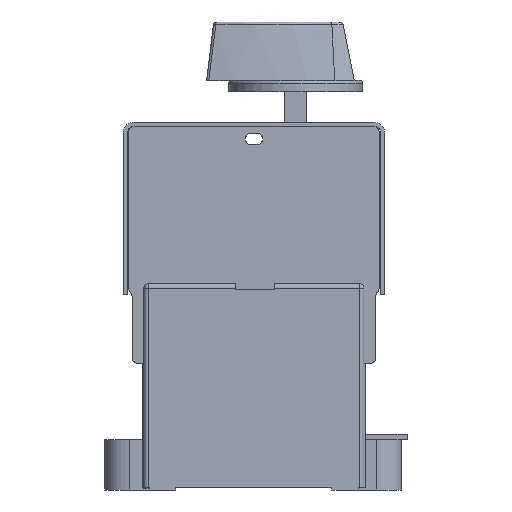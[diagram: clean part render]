
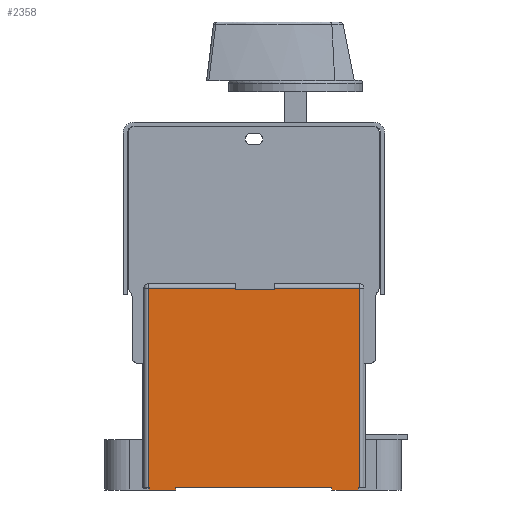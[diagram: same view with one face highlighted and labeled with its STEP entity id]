
A CAD part, left-side view. The second image highlights one B-rep face of the part: STEP entity #2358.
In plain terms, the highlighted planar face has unit normal (-1, 0, 0).
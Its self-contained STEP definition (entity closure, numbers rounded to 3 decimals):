
#2358=ADVANCED_FACE('',(#3971),#3027,.F.);
#3027=PLANE('',#21450);
#3971=FACE_OUTER_BOUND('',#5165,.T.);
#5165=EDGE_LOOP('',(#10281,#10282,#10283,#10284,#10285,#10286,#10287,#10288,
#10289,#10290,#10291,#10292,#10293,#10294,#10295,#10296));
#10281=ORIENTED_EDGE('',*,*,#15546,.F.);
#10282=ORIENTED_EDGE('',*,*,#15334,.T.);
#10283=ORIENTED_EDGE('',*,*,#15158,.T.);
#10284=ORIENTED_EDGE('',*,*,#15548,.F.);
#10285=ORIENTED_EDGE('',*,*,#15161,.T.);
#10286=ORIENTED_EDGE('',*,*,#15294,.T.);
#10287=ORIENTED_EDGE('',*,*,#15549,.T.);
#10288=ORIENTED_EDGE('',*,*,#15550,.T.);
#10289=ORIENTED_EDGE('',*,*,#15551,.F.);
#10290=ORIENTED_EDGE('',*,*,#15381,.F.);
#10291=ORIENTED_EDGE('',*,*,#15386,.T.);
#10292=ORIENTED_EDGE('',*,*,#15552,.T.);
#10293=ORIENTED_EDGE('',*,*,#15394,.F.);
#10294=ORIENTED_EDGE('',*,*,#15388,.F.);
#10295=ORIENTED_EDGE('',*,*,#15553,.T.);
#10296=ORIENTED_EDGE('',*,*,#15554,.T.);
#12549=VERTEX_POINT('',#32159);
#12550=VERTEX_POINT('',#32161);
#12552=VERTEX_POINT('',#32167);
#12553=VERTEX_POINT('',#32168);
#12641=VERTEX_POINT('',#32473);
#12642=VERTEX_POINT('',#32477);
#12688=VERTEX_POINT('',#32658);
#12689=VERTEX_POINT('',#32659);
#12693=VERTEX_POINT('',#32668);
#12694=VERTEX_POINT('',#32673);
#12695=VERTEX_POINT('',#32674);
#12698=VERTEX_POINT('',#32682);
#12793=VERTEX_POINT('',#32976);
#12794=VERTEX_POINT('',#32981);
#12795=VERTEX_POINT('',#32983);
#12796=VERTEX_POINT('',#32987);
#15158=EDGE_CURVE('',#12550,#12549,#17370,.T.);
#15161=EDGE_CURVE('',#12552,#12553,#17372,.T.);
#15294=EDGE_CURVE('',#12553,#12642,#17442,.T.);
#15334=EDGE_CURVE('',#12641,#12550,#17458,.T.);
#15381=EDGE_CURVE('',#12688,#12689,#17493,.T.);
#15386=EDGE_CURVE('',#12688,#12693,#17498,.T.);
#15388=EDGE_CURVE('',#12694,#12695,#17500,.T.);
#15394=EDGE_CURVE('',#12695,#12698,#17506,.T.);
#15546=EDGE_CURVE('',#12641,#12793,#17645,.T.);
#15548=EDGE_CURVE('',#12552,#12549,#17646,.T.);
#15549=EDGE_CURVE('',#12642,#12794,#17647,.T.);
#15550=EDGE_CURVE('',#12794,#12795,#17648,.T.);
#15551=EDGE_CURVE('',#12689,#12795,#17649,.T.);
#15552=EDGE_CURVE('',#12693,#12698,#17650,.T.);
#15553=EDGE_CURVE('',#12694,#12796,#17651,.T.);
#15554=EDGE_CURVE('',#12796,#12793,#17652,.T.);
#17370=LINE('',#32160,#19455);
#17372=LINE('',#32166,#19457);
#17442=LINE('',#32478,#19527);
#17458=LINE('',#32558,#19543);
#17493=LINE('',#32657,#19578);
#17498=LINE('',#32669,#19583);
#17500=LINE('',#32672,#19585);
#17506=LINE('',#32685,#19591);
#17645=LINE('',#32975,#19730);
#17646=LINE('',#32979,#19731);
#17647=LINE('',#32980,#19732);
#17648=LINE('',#32982,#19733);
#17649=LINE('',#32984,#19734);
#17650=LINE('',#32985,#19735);
#17651=LINE('',#32986,#19736);
#17652=LINE('',#32988,#19737);
#19455=VECTOR('',#25884,1.);
#19457=VECTOR('',#25890,1.);
#19527=VECTOR('',#26178,1.);
#19543=VECTOR('',#26290,1.);
#19578=VECTOR('',#26395,1.);
#19583=VECTOR('',#26402,1.);
#19585=VECTOR('',#26406,1.);
#19591=VECTOR('',#26414,1.);
#19730=VECTOR('',#26669,1.);
#19731=VECTOR('',#26674,1.);
#19732=VECTOR('',#26675,1.);
#19733=VECTOR('',#26676,1.);
#19734=VECTOR('',#26677,1.);
#19735=VECTOR('',#26678,1.);
#19736=VECTOR('',#26679,1.);
#19737=VECTOR('',#26680,1.);
#21450=AXIS2_PLACEMENT_3D('',#32989,#26681,#26682);
#25884=DIRECTION('',(0.,0.,-1.));
#25890=DIRECTION('',(0.,0.,1.));
#26178=DIRECTION('',(0.,1.,0.));
#26290=DIRECTION('',(0.,1.,0.));
#26395=DIRECTION('',(0.,1.,0.));
#26402=DIRECTION('',(0.,0.,1.));
#26406=DIRECTION('',(0.,1.,0.));
#26414=DIRECTION('',(0.,0.,1.));
#26669=DIRECTION('',(0.,0.,-1.));
#26674=DIRECTION('',(0.,-1.,0.));
#26675=DIRECTION('',(0.,0.,-1.));
#26676=DIRECTION('',(0.,-1.,0.));
#26677=DIRECTION('',(0.,0.,1.));
#26678=DIRECTION('',(0.,-1.,0.));
#26679=DIRECTION('',(0.,0.,1.));
#26680=DIRECTION('',(0.,-1.,0.));
#26681=DIRECTION('',(1.,0.,0.));
#26682=DIRECTION('',(0.,0.,-1.));
#32159=CARTESIAN_POINT('',(-69.,-31.985,67.));
#32160=CARTESIAN_POINT('',(-69.,-31.985,69.1));
#32161=CARTESIAN_POINT('',(-69.,-31.985,67.6));
#32166=CARTESIAN_POINT('',(-69.,-17.985,69.1));
#32167=CARTESIAN_POINT('',(-69.,-17.985,67.));
#32168=CARTESIAN_POINT('',(-69.,-17.985,67.6));
#32473=CARTESIAN_POINT('',(-69.,-62.735,67.6));
#32477=CARTESIAN_POINT('',(-69.,13.265,67.6));
#32478=CARTESIAN_POINT('',(-69.,13.265,67.6));
#32558=CARTESIAN_POINT('',(-69.,13.265,67.6));
#32657=CARTESIAN_POINT('',(-69.,3.265,-4.9));
#32658=CARTESIAN_POINT('',(-69.,3.265,-4.9));
#32659=CARTESIAN_POINT('',(-69.,12.765,-4.9));
#32668=CARTESIAN_POINT('',(-69.,3.265,-3.9));
#32669=CARTESIAN_POINT('',(-69.,3.265,-5.9));
#32672=CARTESIAN_POINT('',(-69.,-62.235,-4.9));
#32673=CARTESIAN_POINT('',(-69.,-62.235,-4.9));
#32674=CARTESIAN_POINT('',(-69.,-52.735,-4.9));
#32682=CARTESIAN_POINT('',(-69.,-52.735,-3.9));
#32685=CARTESIAN_POINT('',(-69.,-52.735,-5.9));
#32975=CARTESIAN_POINT('',(-69.,-62.735,69.1));
#32976=CARTESIAN_POINT('',(-69.,-62.735,-3.9));
#32979=CARTESIAN_POINT('',(-69.,12.765,67.));
#32980=CARTESIAN_POINT('',(-69.,13.265,69.1));
#32981=CARTESIAN_POINT('',(-69.,13.265,-3.9));
#32982=CARTESIAN_POINT('',(-69.,-62.235,-3.9));
#32983=CARTESIAN_POINT('',(-69.,12.765,-3.9));
#32984=CARTESIAN_POINT('',(-69.,12.765,-5.9));
#32985=CARTESIAN_POINT('',(-69.,-62.235,-3.9));
#32986=CARTESIAN_POINT('',(-69.,-62.235,-5.9));
#32987=CARTESIAN_POINT('',(-69.,-62.235,-3.9));
#32988=CARTESIAN_POINT('',(-69.,-62.235,-3.9));
#32989=CARTESIAN_POINT('',(-69.,-62.235,69.1));
